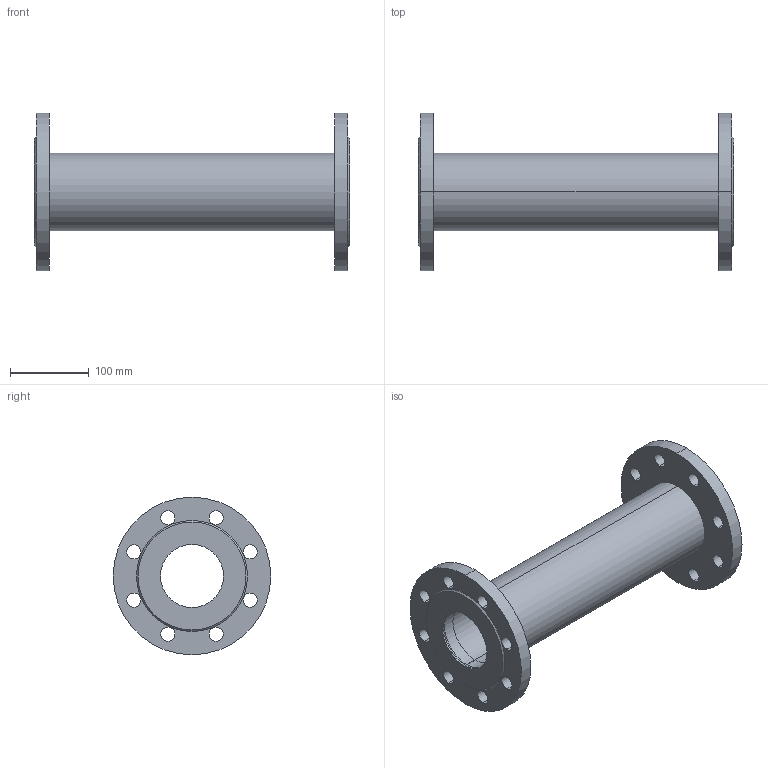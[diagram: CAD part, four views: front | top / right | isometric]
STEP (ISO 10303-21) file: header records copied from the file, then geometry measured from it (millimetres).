
FILE_DESCRIPTION(('STEP AP214'),'1');
FILE_NAME('U:/VDI-Daten/8500/8500_PN16_L400_DN80.STP','2012-06-12T14:11:17',(' '),(' '),'Spatial InterOp 3D',' ',' ');
FILE_SCHEMA(('automotive_design'));
Length unit declared in the file: millimetre
Products named in the file (5): 3D-Objekt
Bounding box: 400 x 200 x 200 mm (x, y, z)
Volume: 1855055 mm3; surface area: 411024.9 mm2
Topology: 5 solids, 5 shells, 62 faces, 156 edges, 104 vertices
Faces by surface type: cylinder 48, plane 10, cone 4
Entity records: 2621 total; most frequent: DIRECTION 394, CARTESIAN_POINT 327, ORIENTED_EDGE 312, AXIS2_PLACEMENT_3D 171, EDGE_CURVE 156, EDGE_LOOP 104, VERTEX_POINT 104, CIRCLE 104
